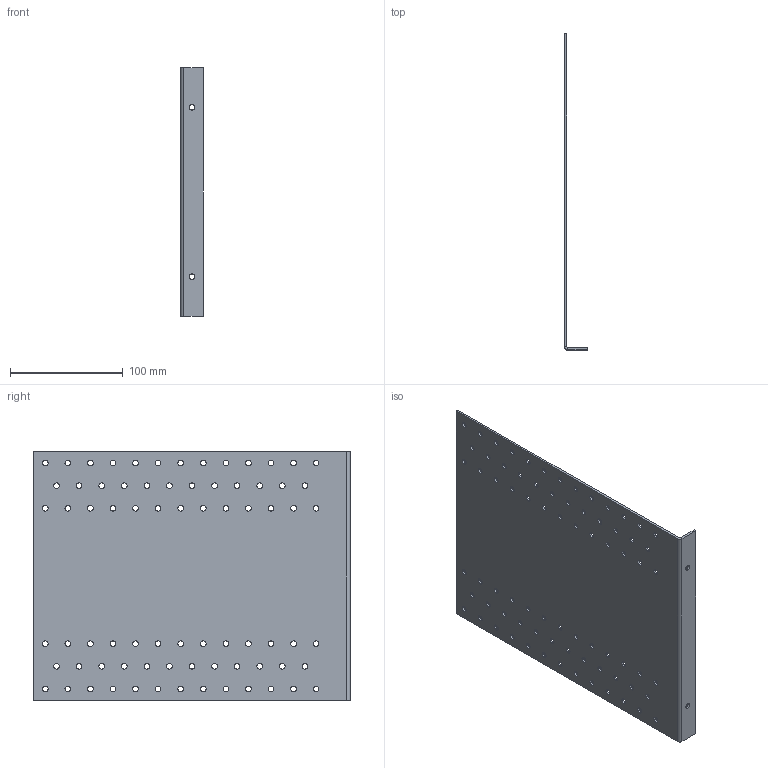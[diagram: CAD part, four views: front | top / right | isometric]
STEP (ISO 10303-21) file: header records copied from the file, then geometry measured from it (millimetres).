
FILE_DESCRIPTION (( 'STEP AP203' ), '1' );
FILE_NAME ('228.STEP', '2020-04-17T13:07:09', ( '' ), ( '' ), 'SwSTEP 2.0', 'SolidWorks 2013', '' );
FILE_SCHEMA (( 'CONFIG_CONTROL_DESIGN' ));
Length unit declared in the file: millimetre
Products named in the file (1): 228
Bounding box: 20 x 280 x 220 mm (x, y, z)
Volume: 127729.9 mm3; surface area: 132249.3 mm2
Topology: 1 solids, 1 shells, 170 faces, 496 edges, 328 vertices
Faces by surface type: cylinder 158, plane 12
Entity records: 6201 total; most frequent: DIRECTION 1154, CARTESIAN_POINT 995, ORIENTED_EDGE 992, EDGE_CURVE 496, AXIS2_PLACEMENT_3D 487, VERTEX_POINT 328, EDGE_LOOP 326, CIRCLE 316
